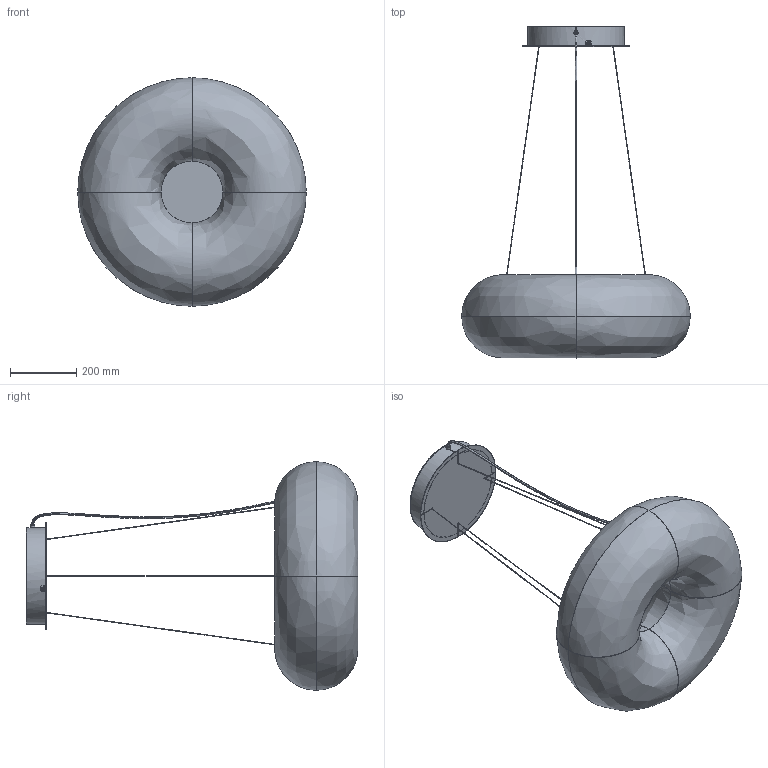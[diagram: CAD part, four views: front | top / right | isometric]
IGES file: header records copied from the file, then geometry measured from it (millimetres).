
Start section: SolidWorks IGES file using analytic representation for surfaces
Global section: file name: C:\Users\alex.movellan\Desktop\Temp Álex\TEKIO Circular\web\Tekio circular P4.IGS; native system: SolidWorks 2019; preprocessor: SolidWorks 2019; author: alex.movellan; date: 210325.113841; units: millimetre
Bounding box: 689 x 1001.5 x 689 mm (x, y, z)
Surface area: 1509079.2 mm2 (no closed solid volume)
Topology: 0 solids, 0 shells, 101 faces, 2759 edges, 2759 vertices
Faces by surface type: bspline 101
